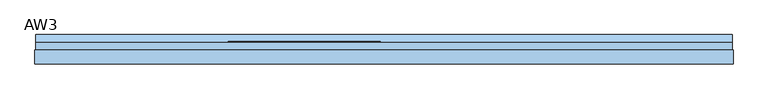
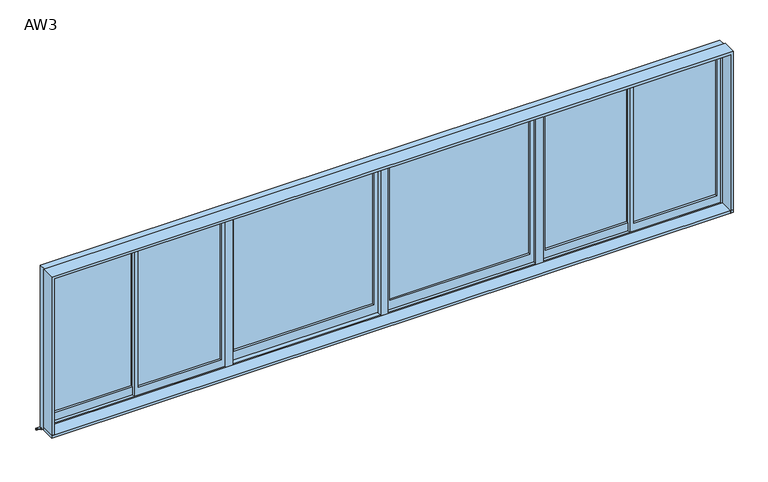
"""IFC4 building model written with IfcOpenShell, lengths in millimetres: window geometry, 営_連窓_引違い2+FIX2 : AW3."""

from ifc_helpers import new_model, si_unit, frame, origin, place, context, project, spatial, polyline, outline, extrude, source, transform, mapped, element, save


def aw3_4e8724e7(model_context):
    return source(origin(), model_context, "Body", "SweptSolid", [
        extrude(outline(polyline([(-75.0, 25.0), (-1437.5, 25.0), (-1437.5, 30.0), (-75.0, 30.0), (-75.0, 25.0)])), frame((0.0, 0.0, 1190.0), z_axis=(0.0, 0.0, 1.0), x_axis=(1.0, 0.0, 0.0)), (0.0, 0.0, 1.0), 1455.0),
        extrude(outline(polyline([(1100.0, -35.0), (2685.0, -35.0), (2685.0, -1477.5), (1100.0, -1477.5), (1100.0, -35.0)]), holes=[polyline([(1190.0, -75.0), (1190.0, -1437.5), (2645.0, -1437.5), (2645.0, -75.0), (1190.0, -75.0)])]), frame((0.0, 5.0, 0.0), z_axis=(0.0, 1.0, 0.0), x_axis=(0.0, 0.0, 1.0)), (0.0, 0.0, 1.0), 30.0),
        extrude(outline(polyline([(3235.0, -20.0), (2430.0, -20.0), (2430.0, -15.0), (3235.0, -15.0), (3235.0, -20.0)])), frame((0.0, 0.0, 1180.0), z_axis=(0.0, 0.0, 1.0), x_axis=(1.0, 0.0, 0.0)), (0.0, 0.0, 1.0), 1465.0),
        extrude(outline(polyline([(2390.0, 10.0), (1585.0, 10.0), (1585.0, 15.0), (2390.0, 15.0), (2390.0, 10.0)])), frame((0.0, 0.0, 1180.0), z_axis=(0.0, 0.0, 1.0), x_axis=(1.0, 0.0, 0.0)), (0.0, 0.0, 1.0), 1465.0),
        extrude(outline(polyline([(1100.0, 3275.0), (2685.0, 3275.0), (2685.0, 2390.0), (1100.0, 2390.0), (1100.0, 3275.0)]), holes=[polyline([(1180.0, 3235.0), (1180.0, 2430.0), (2645.0, 2430.0), (2645.0, 3235.0), (1180.0, 3235.0)])]), frame((0.0, -40.0, 0.0), z_axis=(0.0, 1.0, 0.0), x_axis=(0.0, 0.0, 1.0)), (0.0, 0.0, 1.0), 30.0),
        extrude(outline(polyline([(1100.0, 2430.0), (2685.0, 2430.0), (2685.0, 1545.0), (1100.0, 1545.0), (1100.0, 2430.0)]), holes=[polyline([(1180.0, 2390.0), (1180.0, 1585.0), (2645.0, 1585.0), (2645.0, 2390.0), (1180.0, 2390.0)])]), frame((0.0, -10.0, 0.0), z_axis=(0.0, 1.0, 0.0), x_axis=(0.0, 0.0, 1.0)), (0.0, 0.0, 1.0), 30.0),
        extrude(outline(polyline([(1435.0, 10.0), (75.0, 10.0), (75.0, 15.0), (1435.0, 15.0), (1435.0, 10.0)])), frame((0.0, 0.0, 1190.0), z_axis=(0.0, 0.0, 1.0), x_axis=(1.0, 0.0, 0.0)), (0.0, 0.0, 1.0), 1455.0),
        extrude(outline(polyline([(1100.0, 1475.0), (2685.0, 1475.0), (2685.0, 35.0), (1100.0, 35.0), (1100.0, 1475.0)]), holes=[polyline([(1190.0, 1435.0), (1190.0, 75.0), (2645.0, 75.0), (2645.0, 1435.0), (1190.0, 1435.0)])]), frame((0.0, -10.0, 0.0), z_axis=(0.0, 1.0, 0.0), x_axis=(0.0, 0.0, 1.0)), (0.0, 0.0, 1.0), 30.0),
        extrude(outline(polyline([(-1585.0, -20.0), (-2390.0, -20.0), (-2390.0, -15.0), (-1585.0, -15.0), (-1585.0, -20.0)])), frame((0.0, 0.0, 1180.0), z_axis=(0.0, 0.0, 1.0), x_axis=(1.0, 0.0, 0.0)), (0.0, 0.0, 1.0), 1465.0),
        extrude(outline(polyline([(-2430.0, 10.0), (-3235.0, 10.0), (-3235.0, 15.0), (-2430.0, 15.0), (-2430.0, 10.0)])), frame((0.0, 0.0, 1180.0), z_axis=(0.0, 0.0, 1.0), x_axis=(1.0, 0.0, 0.0)), (0.0, 0.0, 1.0), 1465.0),
        extrude(outline(polyline([(1100.0, -1545.0), (2685.0, -1545.0), (2685.0, -2430.0), (1100.0, -2430.0), (1100.0, -1545.0)]), holes=[polyline([(1180.0, -1585.0), (1180.0, -2390.0), (2645.0, -2390.0), (2645.0, -1585.0), (1180.0, -1585.0)])]), frame((0.0, -40.0, 0.0), z_axis=(0.0, 1.0, 0.0), x_axis=(0.0, 0.0, 1.0)), (0.0, 0.0, 1.0), 30.0),
        extrude(outline(polyline([(1100.0, -2390.0), (2685.0, -2390.0), (2685.0, -3275.0), (1100.0, -3275.0), (1100.0, -2390.0)]), holes=[polyline([(1180.0, -2430.0), (1180.0, -3235.0), (2645.0, -3235.0), (2645.0, -2430.0), (1180.0, -2430.0)])]), frame((0.0, -10.0, 0.0), z_axis=(0.0, 1.0, 0.0), x_axis=(0.0, 0.0, 1.0)), (0.0, 0.0, 1.0), 30.0),
        extrude(outline(polyline([(-1475.0, -45.0), (-1545.0, -45.0), (-1545.0, 25.0), (-1475.0, 25.0), (-1475.0, -45.0)])), frame((0.0, 0.0, 1090.0), z_axis=(0.0, 0.0, 1.0), x_axis=(1.0, 0.0, 0.0)), (0.0, 0.0, 1.0), 1595.0),
        extrude(outline(polyline([(1545.0, -45.0), (1475.0, -45.0), (1475.0, 25.0), (1545.0, 25.0), (1545.0, -45.0)])), frame((0.0, 0.0, 1090.0), z_axis=(0.0, 0.0, 1.0), x_axis=(1.0, 0.0, 0.0)), (0.0, 0.0, 1.0), 1595.0),
        extrude(outline(polyline([(35.0, -45.0), (-35.0, -45.0), (-35.0, 25.0), (35.0, 25.0), (35.0, -45.0)])), frame((0.0, 0.0, 1090.0), z_axis=(0.0, 0.0, 1.0), x_axis=(1.0, 0.0, 0.0)), (0.0, 0.0, 1.0), 1595.0),
        extrude(outline(polyline([(3315.0, -180.0), (-3315.0, -180.0), (-3315.0, -45.0), (3315.0, -45.0), (3315.0, -180.0)])), frame((0.0, 0.0, 1065.0), z_axis=(0.0, 0.0, 1.0), x_axis=(1.0, 0.0, 0.0)), (0.0, 0.0, 1.0), 25.0),
        extrude(outline(polyline([(15.0, 1035.0), (100.0, 995.0), (100.0, 975.0), (95.0014518, 975.0), (95.0014518, 991.8262891), (10.0, 1031.8269723), (10.0, 1050.0), (15.0, 1050.0), (15.0, 1035.0)])), frame((-3305.0, 0.0, 0.0), z_axis=(1.0, 0.0, 0.0), x_axis=(0.0, 1.0, 0.0)), (0.0, 0.0, 1.0), 6610.0),
        extrude(outline(polyline([(1065.0, -3315.0), (1065.0, -3290.0), (2695.0, -3290.0), (2695.0, 3290.0), (1065.0, 3290.0), (1065.0, 3315.0), (2720.0, 3315.0), (2720.0, -3315.0), (1065.0, -3315.0)])), frame((0.0, -180.0, 0.0), z_axis=(0.0, 1.0, 0.0), x_axis=(0.0, 0.0, 1.0)), (0.0, 0.0, 1.0), 135.0),
        extrude(outline(polyline([(1050.0, -3305.0), (1050.0, -3275.0), (2685.0, -3275.0), (2685.0, 3275.0), (1050.0, 3275.0), (1050.0, 3305.0), (2715.0, 3305.0), (2715.0, -3305.0), (1050.0, -3305.0)])), frame((0.0, -45.0, 0.0), z_axis=(0.0, 1.0, 0.0), x_axis=(0.0, 0.0, 1.0)), (0.0, 0.0, 1.0), 70.0),
        extrude(outline(polyline([(-45.0, 1050.0), (-45.0, 1100.0), (25.0, 1090.6666667), (25.0, 1050.0), (-45.0, 1050.0)])), frame((-3275.0, 0.0, 0.0), z_axis=(1.0, 0.0, 0.0), x_axis=(0.0, 1.0, 0.0)), (0.0, 0.0, 1.0), 6550.0),
    ])


if __name__ == "__main__":
    model = new_model("IFC4")
    model_context = context("Model", 3, world=origin())
    ifc_project = project(units=[si_unit("LENGTHUNIT", "METRE", prefix="MILLI")], contexts=[model_context])
    site = spatial("IfcSite", under=ifc_project)
    building = spatial("IfcBuilding", under=site)
    placement = place(None, origin())
    aw3_shape = aw3_4e8724e7(model_context)
    element("IfcWindow", 1, ObjectType="営_連窓_引違い2+FIX2 : AW3", at=placement, inside=building, context=model_context, shape_type="MappedRepresentation", body=[
        mapped(aw3_shape, transform((0.0, 0.0, 0.0), x_axis=(1.0, 0.0, 0.0), y_axis=(0.0, 1.0, 0.0), z_axis=(0.0, 0.0, 1.0))),
    ])
    save(model, "model.ifc")
